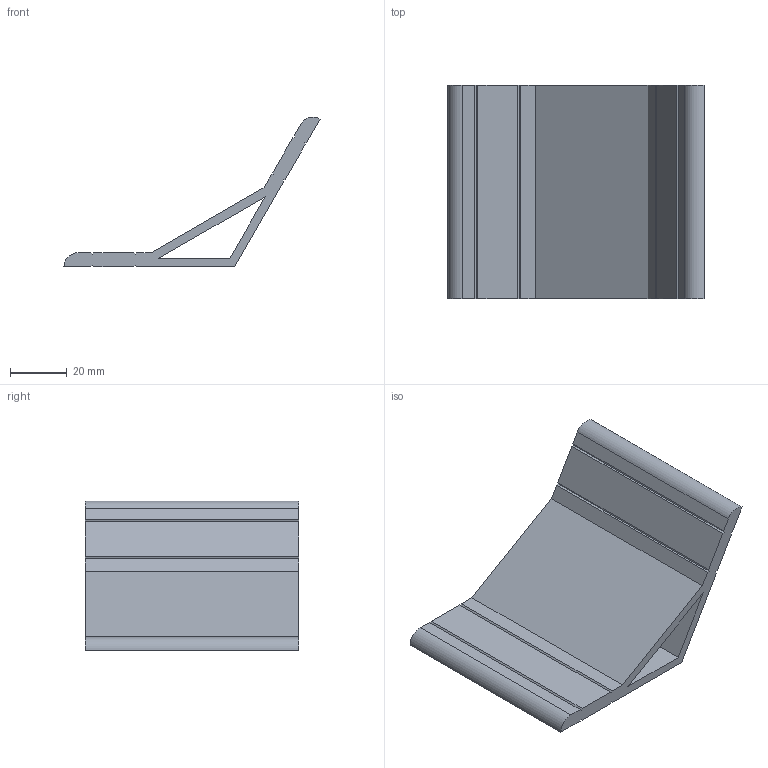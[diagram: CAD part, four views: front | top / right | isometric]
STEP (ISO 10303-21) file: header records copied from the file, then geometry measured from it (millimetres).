
FILE_DESCRIPTION(/* description */ ('Unknown'),/* implementation_level */ '2;1');
FILE_NAME(/* name */ 'NMV60120',/* time_stamp */ '2026-09-02T13:05:50+08:00',/* author */ ('Unknown'),/* organization */ ('Unknown'),/* preprocessor_version */ 'ST-DEVELOPER v16.7',/* originating_system */ 'DEX',/* authorisation */ $);
FILE_SCHEMA (('AUTOMOTIVE_DESIGN {1 0 10303 214 3 1 1}'));
Length unit declared in the file: millimetre
Products named in the file (1): NMV60120
Bounding box: 90 x 75 x 52.63 mm (x, y, z)
Volume: 45267.5 mm3; surface area: 25918.2 mm2
Topology: 1 solids, 1 shells, 36 faces, 102 edges, 68 vertices
Faces by surface type: plane 34, cylinder 2
Entity records: 1184 total; most frequent: CARTESIAN_POINT 207, ORIENTED_EDGE 204, DIRECTION 180, EDGE_CURVE 102, LINE 98, VECTOR 98, VERTEX_POINT 68, AXIS2_PLACEMENT_3D 41
